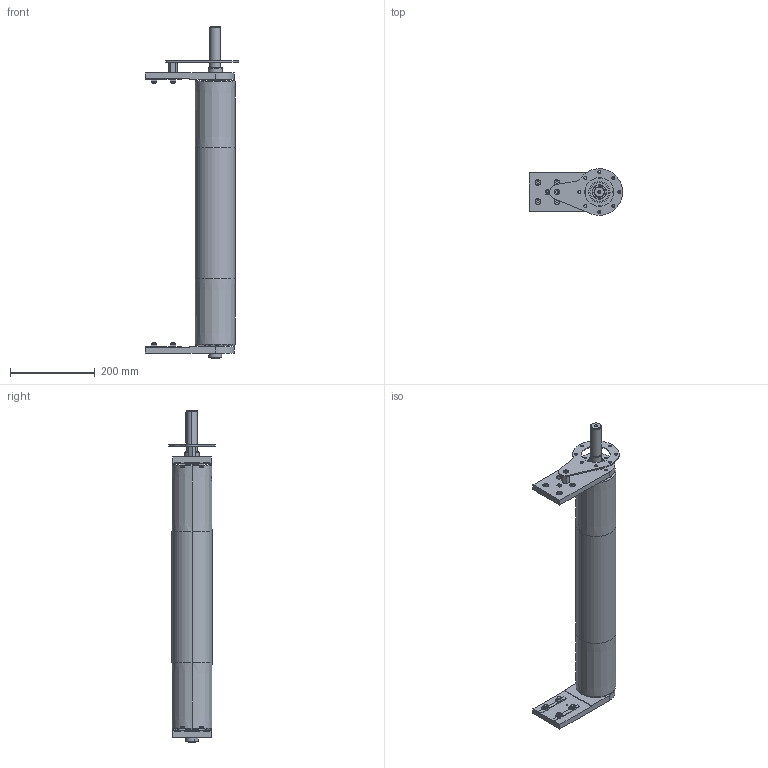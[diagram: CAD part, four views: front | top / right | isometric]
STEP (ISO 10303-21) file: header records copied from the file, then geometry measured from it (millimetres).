
FILE_DESCRIPTION (( 'STEP AP203' ), '1' );
FILE_NAME ('084.095.KDC.49.600.STEP', '2019-07-30T07:23:55', ( '' ), ( '' ), 'SwSTEP 2.0', 'SolidWorks 2018', '' );
FILE_SCHEMA (( 'CONFIG_CONTROL_DESIGN' ));
Length unit declared in the file: millimetre
Products named in the file (15): 084.808.006_084.808.002; Circlip DIN 471 - 30 x 1.5_Circlip DIN 471 - 30 x 1.5; 084.808.007_084.808.007; 084.802.019_084.802.019; 084.812.002; 084.816.110_084.816.110<A macchina>; CHIAVETTE_A 8x7x70 UNI 6604-69; 084.812.003; 084.095.KDC.49.600; 084.302.000 DADI ALUSIC 13x13_084.302.004; 084.802.027; 084.810.003; 084.301.000 VITI ALUSIC_084.301.003; 084.802.034_084.802.034; 084.808.004
Assembly tree (30 placements, depth 2):
  084.095.KDC.49.600
    084.802.027
    084.808.004
    084.812.002
    084.802.034_084.802.034
    084.301.000 VITI ALUSIC_084.301.003  x8
    084.302.000 DADI ALUSIC 13x13_084.302.004  x8
    084.816.110_084.816.110<A macchina>
    084.812.003
    084.808.007_084.808.007
    084.808.006_084.808.002
    084.810.003  x2
    084.802.019_084.802.019
    CHIAVETTE_A 8x7x70 UNI 6604-69
    Circlip DIN 471 - 30 x 1.5_Circlip DIN 471 - 30 x 1.5  x2
Bounding box: 220 x 110 x 784.5 mm (x, y, z)
Volume: 1871827.1 mm3; surface area: 834984.5 mm2
Topology: 35 solids, 36 shells, 860 faces, 2154 edges, 1397 vertices
Faces by surface type: plane 359, cylinder 300, torus 76, cone 68, bspline 48, sphere 9
Entity records: 20490 total; most frequent: CARTESIAN_POINT 4166, DIRECTION 3087, ORIENTED_EDGE 2912, EDGE_CURVE 1456, AXIS2_PLACEMENT_3D 1217, VERTEX_POINT 946, EDGE_LOOP 692, CIRCLE 658
